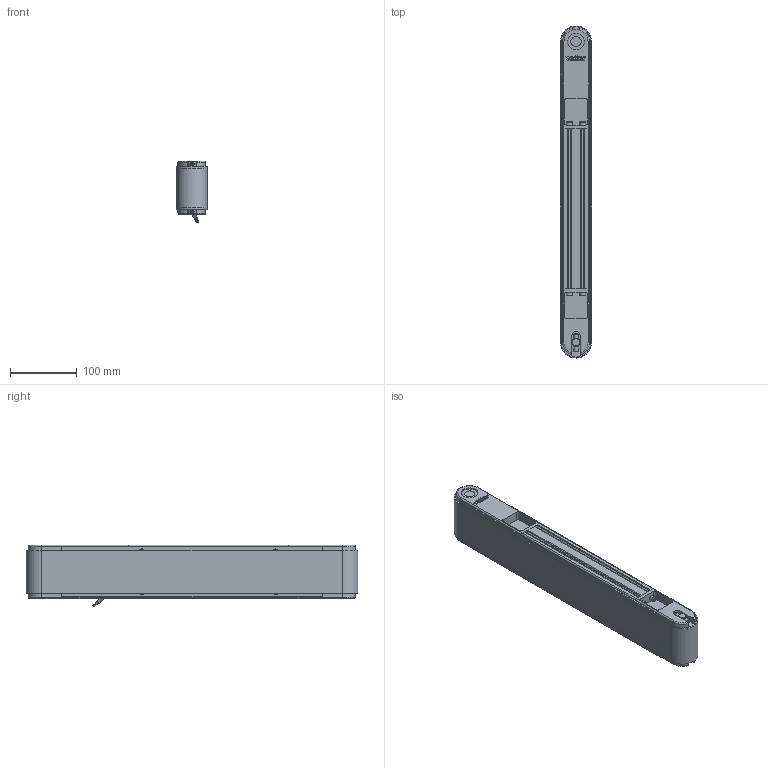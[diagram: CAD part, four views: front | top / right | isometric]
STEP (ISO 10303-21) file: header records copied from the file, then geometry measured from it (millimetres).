
FILE_DESCRIPTION(/* description */ (''),/* implementation_level */ '2;1');
FILE_NAME(/* name */ 'G:\DATEN\CAD\Förderband\Marketing\3D-Modelle (Standard)\FR-40-80\FR-40-80-450-K.stp',/* time_stamp */ '2019-05-08T08:14:02+02:00',/* author */ ('melanie.ochs'),/* organization */ (''),/* preprocessor_version */ 'ST-DEVELOPER v17',/* originating_system */ 'Autodesk Inventor 2019',/* authorisation */ '');
FILE_SCHEMA (('CONFIG_CONTROL_DESIGN'));
Length unit declared in the file: centimetre
Products named in the file (1): FR-40-80-450-K
Bounding box: 46.6 x 496.6 x 92.71 mm (x, y, z)
Volume: 933448.5 mm3; surface area: 353859 mm2
Topology: 1 solids, 25 shells, 1017 faces, 2769 edges, 1848 vertices
Faces by surface type: plane 525, cylinder 279, bspline 122, cone 61, torus 30
Full cylindrical faces by diameter (mm): 1 x6, 4 x6, 4.3 x4, 4.64 x2, 4.917 x1, 5 x11, 5.5 x8, 6 x4, 6.773 x1, 8 x4, 8.3 x4, 8.5 x8, 8.773 x1, 10 x1, 11 x1, 12 x3, 15 x4, 20 x2, 25 x2, 28 x4
Entity records: 34655 total; most frequent: CARTESIAN_POINT 8252, ORIENTED_EDGE 5518, DIRECTION 4984, EDGE_CURVE 2759, VERTEX_POINT 1848, AXIS2_PLACEMENT_3D 1724, LINE 1536, VECTOR 1536
